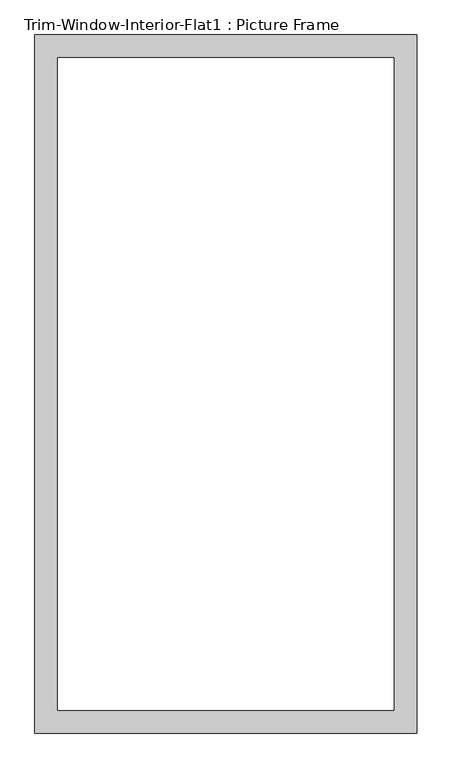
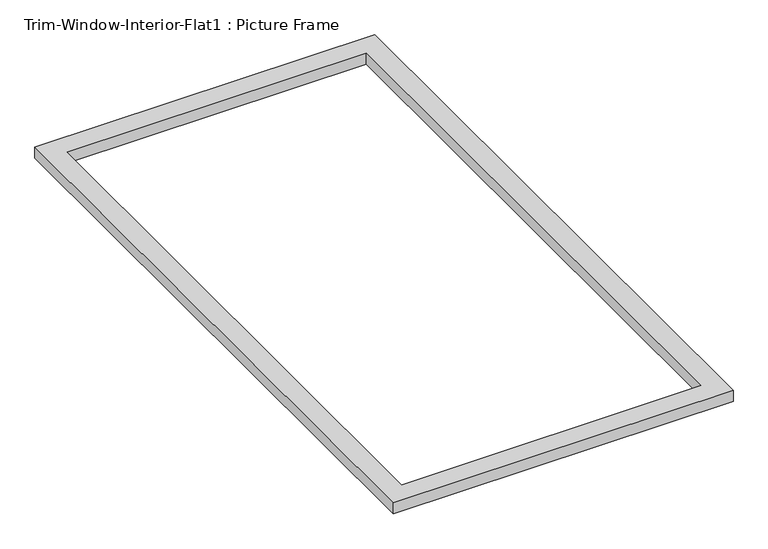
"""IFC4 building model written with IfcOpenShell, lengths in millimetres: proxy geometry, Trim-Window-Interior-Flat1 : Picture Frame."""

from ifc_helpers import new_model, si_unit, origin, origin_with_axes, place, context, project, spatial, polyline, outline, extrude, source, transform, mapped, element, save


def trim_window_interior_flat1_picture_frame_eabbbb4e(model_context):
    return source(origin(), model_context, "Body", "SweptSolid", [
        extrude(outline(polyline([(476.25, -44.45), (-476.25, -44.45), (-476.25, 1695.45), (476.25, 1695.45), (476.25, -44.45)]), holes=[polyline([(419.1, 12.7), (419.1, 1638.3), (-419.1, 1638.3), (-419.1, 12.7), (419.1, 12.7)])]), origin_with_axes(), (0.0, 0.0, 1.0), 31.75),
    ])


if __name__ == "__main__":
    model = new_model("IFC4")
    model_context = context("Model", 3, world=origin())
    ifc_project = project(units=[si_unit("LENGTHUNIT", "METRE", prefix="MILLI")], contexts=[model_context])
    site = spatial("IfcSite", under=ifc_project)
    building = spatial("IfcBuilding", under=site)
    placement = place(None, origin())
    trim_window_interior_flat1_picture_frame_shape = trim_window_interior_flat1_picture_frame_eabbbb4e(model_context)
    element("IfcBuildingElementProxy", 1, Name="Trim-Window-Interior-Flat1 : Picture Frame", ObjectType="Trim-Window-Interior-Flat1 : Picture Frame", at=placement, inside=building, context=model_context, shape_type="MappedRepresentation", body=[
        mapped(trim_window_interior_flat1_picture_frame_shape, transform((0.0, 0.0, 0.0), x_axis=(1.0, 0.0, 0.0), y_axis=(0.0, 1.0, 0.0), z_axis=(0.0, 0.0, 1.0))),
    ])
    save(model, "model.ifc")
